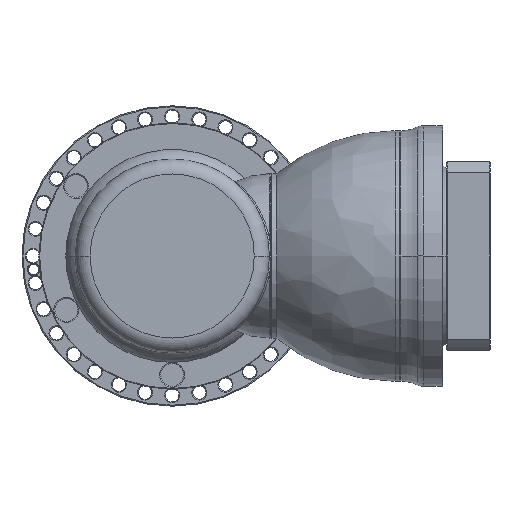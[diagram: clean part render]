
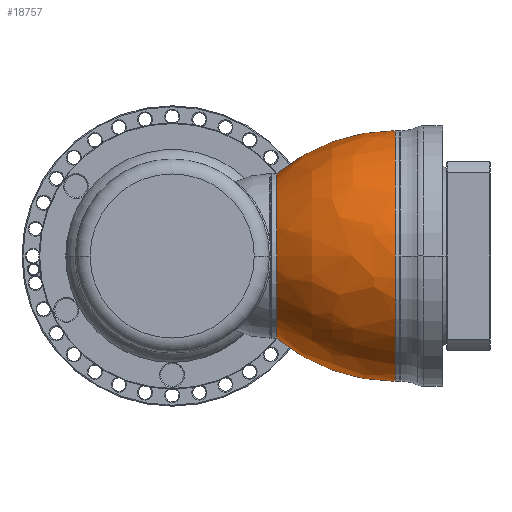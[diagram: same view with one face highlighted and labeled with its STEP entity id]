
A CAD part, left-side view. The second image highlights one B-rep face of the part: STEP entity #18757.
In plain terms, the highlighted free-form (B-spline) face has degree [3, 3] with [7, 4] control points.
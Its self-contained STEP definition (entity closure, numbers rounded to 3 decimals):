
#18463=CARTESIAN_POINT('',(-5.,0.,0.));
#18464=DIRECTION('',(1.,0.,0.));
#18465=DIRECTION('',(0.,-1.,0.));
#18466=AXIS2_PLACEMENT_3D('',#18463,#18464,#18465);
#18487=CARTESIAN_POINT('',(-5.,-58.52,0.));
#18488=DIRECTION('',(0.,0.,-1.));
#18489=DIRECTION('',(-0.644,0.765,0.));
#18490=AXIS2_PLACEMENT_3D('',#18487,#18488,#18489);
#18492=CARTESIAN_POINT('',(-5.,58.52,0.));
#18493=DIRECTION('',(0.,0.,1.));
#18494=DIRECTION('',(-0.644,-0.765,0.));
#18495=AXIS2_PLACEMENT_3D('',#18492,#18493,#18494);
#18507=CARTESIAN_POINT('',(-123.861,0.,0.));
#18508=DIRECTION('',(-1.,0.,0.));
#18509=DIRECTION('',(0.,1.,0.));
#18510=AXIS2_PLACEMENT_3D('',#18507,#18508,#18509);
#18558=CARTESIAN_POINT('',(-5.,126.,0.));
#18559=CARTESIAN_POINT('',(-5.,-126.,0.));
#18560=VERTEX_POINT('',#18558);
#18561=VERTEX_POINT('',#18559);
#18562=CARTESIAN_POINT('',(-123.861,82.618,0.));
#18563=CARTESIAN_POINT('',(-123.861,-82.618,
0.));
#18564=VERTEX_POINT('',#18562);
#18565=VERTEX_POINT('',#18563);
#18722=CARTESIAN_POINT('',(-2.417,125.733,
7.91));
#18723=CARTESIAN_POINT('',(-48.202,126.373,
7.951));
#18724=CARTESIAN_POINT('',(-91.217,110.704,
6.965));
#18725=CARTESIAN_POINT('',(-125.825,80.78,
5.082));
#18726=CARTESIAN_POINT('',(-2.417,130.601,
-69.466));
#18727=CARTESIAN_POINT('',(-48.202,131.266,
-69.819));
#18728=CARTESIAN_POINT('',(-91.217,114.991,
-61.162));
#18729=CARTESIAN_POINT('',(-125.825,83.908,
-44.63));
#18730=CARTESIAN_POINT('',(-2.417,77.529,
-125.982));
#18731=CARTESIAN_POINT('',(-48.202,77.924,
-126.623));
#18732=CARTESIAN_POINT('',(-91.217,68.262,
-110.923));
#18733=CARTESIAN_POINT('',(-125.825,49.81,
-80.94));
#18734=CARTESIAN_POINT('',(-2.417,0.,
-125.982));
#18735=CARTESIAN_POINT('',(-48.202,0.,-126.623));
#18736=CARTESIAN_POINT('',(-91.217,0.,-110.923));
#18737=CARTESIAN_POINT('',(-125.825,0.,-80.94));
#18738=CARTESIAN_POINT('',(-2.417,-77.529,
-125.982));
#18739=CARTESIAN_POINT('',(-48.202,-77.924,
-126.623));
#18740=CARTESIAN_POINT('',(-91.217,-68.262,
-110.923));
#18741=CARTESIAN_POINT('',(-125.825,-49.81,
-80.94));
#18742=CARTESIAN_POINT('',(-2.417,-130.601,
-69.466));
#18743=CARTESIAN_POINT('',(-48.202,-131.266,
-69.819));
#18744=CARTESIAN_POINT('',(-91.217,-114.991,
-61.162));
#18745=CARTESIAN_POINT('',(-125.825,-83.908,
-44.63));
#18746=CARTESIAN_POINT('',(-2.417,-125.733,
7.91));
#18747=CARTESIAN_POINT('',(-48.202,-126.373,
7.951));
#18748=CARTESIAN_POINT('',(-91.217,-110.704,
6.965));
#18749=CARTESIAN_POINT('',(-125.825,-80.78,
5.082));
#18750=(BOUNDED_SURFACE()B_SPLINE_SURFACE(3,3,((#18722,#18723,#18724,#18725),(
#18726,#18727,#18728,#18729),(#18730,#18731,#18732,#18733),(#18734,#18735,
#18736,#18737),(#18738,#18739,#18740,#18741),(#18742,#18743,#18744,#18745),(
#18746,#18747,#18748,#18749)),.UNSPECIFIED.,.F.,.F.,.F.)B_SPLINE_SURFACE_WITH_KNOTS((4,3,4),(4,4),(0.,1.,2.),(0.,1.),.UNSPECIFIED.)GEOMETRIC_REPRESENTATION_ITEM()RATIONAL_B_SPLINE_SURFACE(((1.227,1.174,
1.174,1.227),(0.969,0.927,
0.927,0.969),(0.969,0.927,
0.927,0.969),(1.227,1.174,
1.174,1.227),(0.969,0.927,
0.927,0.969),(0.969,0.927,
0.927,0.969),(1.227,1.174,
1.174,1.227)))REPRESENTATION_ITEM('')SURFACE());
#18751=ORIENTED_EDGE('',*,*,#18713,.T.);
#18752=ORIENTED_EDGE('',*,*,#18688,.T.);
#18753=ORIENTED_EDGE('',*,*,#18634,.T.);
#18754=ORIENTED_EDGE('',*,*,#18685,.F.);
#18755=EDGE_LOOP('',(#18751,#18752,#18753,#18754));
#18756=FACE_OUTER_BOUND('',#18755,.F.);
#18757=ADVANCED_FACE('',(#18756),#18750,.T.);
#18467=CIRCLE('',#18466,126.);
#18491=CIRCLE('',#18490,184.52);
#18496=CIRCLE('',#18495,184.52);
#18511=CIRCLE('',#18510,82.618);
#18634=EDGE_CURVE('',#18561,#18560,#18467,.T.);
#18685=EDGE_CURVE('',#18564,#18560,#18491,.T.);
#18688=EDGE_CURVE('',#18565,#18561,#18496,.T.);
#18713=EDGE_CURVE('',#18564,#18565,#18511,.T.);
